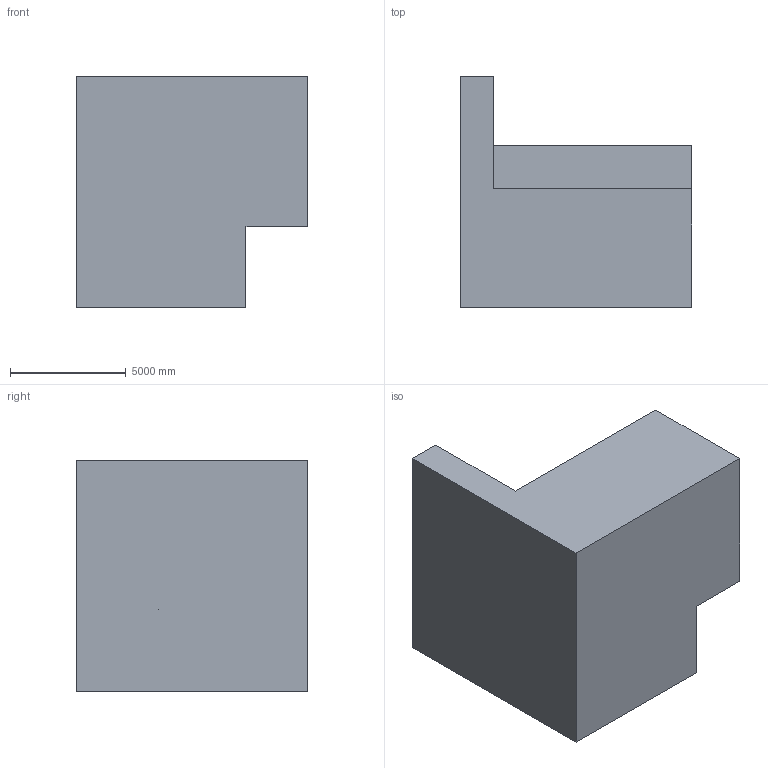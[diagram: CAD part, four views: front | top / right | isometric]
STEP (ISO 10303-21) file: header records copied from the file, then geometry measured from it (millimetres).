
FILE_DESCRIPTION (( 'STEP AP203' ), '1' );
FILE_NAME ('217.STEP', '2022-07-28T13:56:14', ( 'user' ), ( '' ), 'SwSTEP 2.0', 'SolidWorks 2021', '' );
FILE_SCHEMA (( 'CONFIG_CONTROL_DESIGN' ));
Length unit declared in the file: centimetre
Products named in the file (1): 217
Bounding box: 10000 x 10000 x 10000 mm (x, y, z)
Volume: 607279008387.3 mm3; surface area: 508711711.8 mm2
Topology: 1 solids, 1 shells, 14 faces, 36 edges, 24 vertices
Faces by surface type: plane 14
Entity records: 497 total; most frequent: CARTESIAN_POINT 75, ORIENTED_EDGE 72, DIRECTION 66, EDGE_CURVE 36, LINE 36, VECTOR 36, VERTEX_POINT 24, AXIS2_PLACEMENT_3D 15
